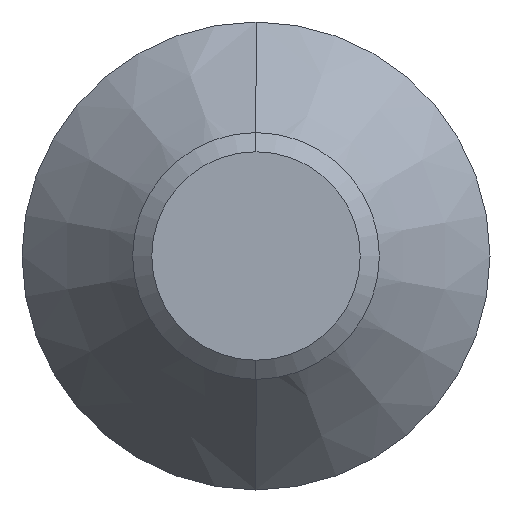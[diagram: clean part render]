
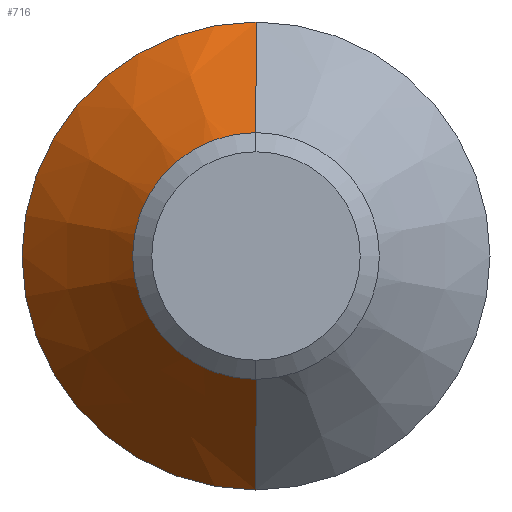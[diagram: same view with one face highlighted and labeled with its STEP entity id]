
A CAD part, left-side view. The second image highlights one B-rep face of the part: STEP entity #716.
In plain terms, the highlighted conical face has half-angle 39.806 degrees and reference radius 2.75 mm.
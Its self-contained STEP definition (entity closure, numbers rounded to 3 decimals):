
#474 = CONICAL_SURFACE ( 'NONE', #3170, 2.75, 0.695 ) ;
#702 = AXIS2_PLACEMENT_3D ( 'NONE', #2203, #3892, #2219 ) ;
#716 = ADVANCED_FACE ( 'NONE', ( #2429 ), #474, .T. ) ;
#820 = EDGE_CURVE ( 'NONE', #1552, #997, #4225, .T. ) ;
#857 = VERTEX_POINT ( 'NONE', #2547 ) ;
#997 = VERTEX_POINT ( 'NONE', #4548 ) ;
#1073 = ORIENTED_EDGE ( 'NONE', *, *, #4411, .F. ) ;
#1151 = CIRCLE ( 'NONE', #702, 2.75 ) ;
#1343 = CARTESIAN_POINT ( 'NONE',  ( 4.655, 0., 0. ) ) ;
#1372 = CARTESIAN_POINT ( 'NONE',  ( 6.455, 0., -2.75 ) ) ;
#1552 = VERTEX_POINT ( 'NONE', #2723 ) ;
#1889 = CARTESIAN_POINT ( 'NONE',  ( 6.455, 0., 0. ) ) ;
#1945 = AXIS2_PLACEMENT_3D ( 'NONE', #1343, #3398, #2312 ) ;
#2056 = DIRECTION ( 'NONE',  ( 0.768, 0., 0.64 ) ) ;
#2203 = CARTESIAN_POINT ( 'NONE',  ( 6.455, 0., 0. ) ) ;
#2218 = ORIENTED_EDGE ( 'NONE', *, *, #3912, .T. ) ;
#2219 = DIRECTION ( 'NONE',  ( 0., 0., 1. ) ) ;
#2312 = DIRECTION ( 'NONE',  ( 0., 0., 1. ) ) ;
#2349 = LINE ( 'NONE', #3977, #4135 ) ;
#2429 = FACE_OUTER_BOUND ( 'NONE', #4333, .T. ) ;
#2530 = ORIENTED_EDGE ( 'NONE', *, *, #820, .F. ) ;
#2547 = CARTESIAN_POINT ( 'NONE',  ( 6.455, 0., 2.75 ) ) ;
#2723 = CARTESIAN_POINT ( 'NONE',  ( 4.655, 0., 1.25 ) ) ;
#3002 = VERTEX_POINT ( 'NONE', #3772 ) ;
#3147 = VECTOR ( 'NONE', #4531, 1000. ) ;
#3170 = AXIS2_PLACEMENT_3D ( 'NONE', #1889, #3779, #3697 ) ;
#3398 = DIRECTION ( 'NONE',  ( -1., 0., 0. ) ) ;
#3419 = ORIENTED_EDGE ( 'NONE', *, *, #3719, .T. ) ;
#3697 = DIRECTION ( 'NONE',  ( 0., 0., -1. ) ) ;
#3719 = EDGE_CURVE ( 'NONE', #857, #3002, #1151, .T. ) ;
#3772 = CARTESIAN_POINT ( 'NONE',  ( 6.455, 0., -2.75 ) ) ;
#3779 = DIRECTION ( 'NONE',  ( 1., 0., 0. ) ) ;
#3892 = DIRECTION ( 'NONE',  ( -1., 0., 0. ) ) ;
#3912 = EDGE_CURVE ( 'NONE', #1552, #857, #2349, .T. ) ;
#3977 = CARTESIAN_POINT ( 'NONE',  ( 6.455, 0., 2.75 ) ) ;
#4125 = LINE ( 'NONE', #1372, #3147 ) ;
#4135 = VECTOR ( 'NONE', #2056, 1000. ) ;
#4225 = CIRCLE ( 'NONE', #1945, 1.25 ) ;
#4333 = EDGE_LOOP ( 'NONE', ( #2530, #2218, #3419, #1073 ) ) ;
#4411 = EDGE_CURVE ( 'NONE', #997, #3002, #4125, .T. ) ;
#4531 = DIRECTION ( 'NONE',  ( 0.768, 0., -0.64 ) ) ;
#4548 = CARTESIAN_POINT ( 'NONE',  ( 4.655, 0., -1.25 ) ) ;
